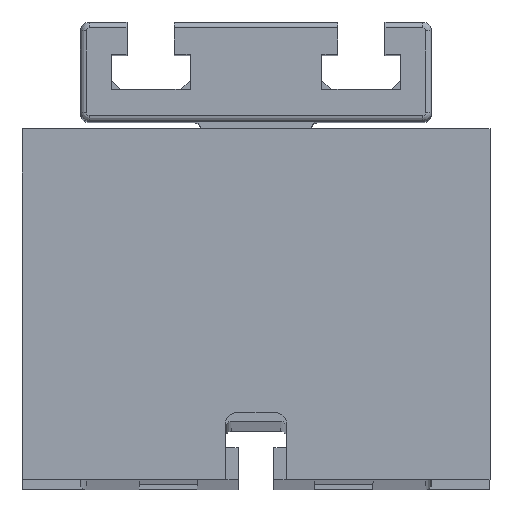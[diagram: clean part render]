
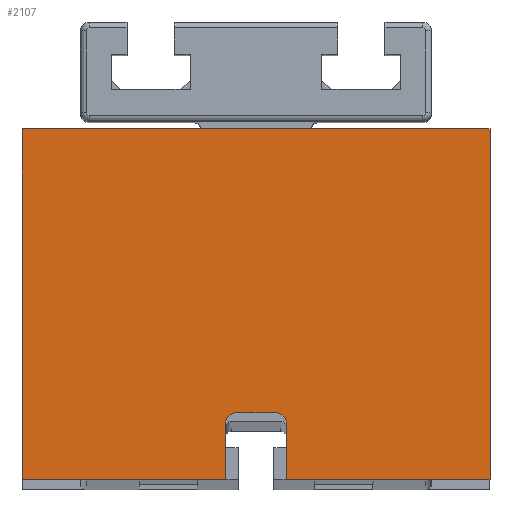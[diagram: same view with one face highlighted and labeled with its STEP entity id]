
A CAD part, top view. The second image highlights one B-rep face of the part: STEP entity #2107.
In plain terms, the highlighted planar face has unit normal (0, 0, 1).
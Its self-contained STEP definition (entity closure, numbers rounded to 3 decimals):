
#7 = CARTESIAN_POINT ( 'NONE',  ( -5.25, 0., 12. ) ) ;
#93 = LINE ( 'NONE', #5881, #4899 ) ;
#197 = CARTESIAN_POINT ( 'NONE',  ( -3.25, -20.5, 12. ) ) ;
#372 = CARTESIAN_POINT ( 'NONE',  ( 0., -30., 12. ) ) ;
#378 = CARTESIAN_POINT ( 'NONE',  ( -5.25, -30., 12. ) ) ;
#380 = CARTESIAN_POINT ( 'NONE',  ( 5.25, -20.5, 12. ) ) ;
#408 = CARTESIAN_POINT ( 'NONE',  ( 40., -30., 12. ) ) ;
#424 = LINE ( 'NONE', #372, #3987 ) ;
#482 = DIRECTION ( 'NONE',  ( 0., -1., 0. ) ) ;
#486 = ORIENTED_EDGE ( 'NONE', *, *, #4388, .T. ) ;
#506 = VERTEX_POINT ( 'NONE', #2068 ) ;
#524 = DIRECTION ( 'NONE',  ( 0., -1., 0. ) ) ;
#596 = AXIS2_PLACEMENT_3D ( 'NONE', #1731, #2126, #4900 ) ;
#867 = VERTEX_POINT ( 'NONE', #5093 ) ;
#1024 = ORIENTED_EDGE ( 'NONE', *, *, #1359, .T. ) ;
#1049 = EDGE_CURVE ( 'NONE', #4682, #2054, #2299, .T. ) ;
#1143 = DIRECTION ( 'NONE',  ( 1., 0., 0. ) ) ;
#1236 = VECTOR ( 'NONE', #482, 1000. ) ;
#1258 = ORIENTED_EDGE ( 'NONE', *, *, #1744, .T. ) ;
#1359 = EDGE_CURVE ( 'NONE', #2054, #506, #4625, .T. ) ;
#1397 = VERTEX_POINT ( 'NONE', #2343 ) ;
#1399 = DIRECTION ( 'NONE',  ( 0., -1., 0. ) ) ;
#1493 = DIRECTION ( 'NONE',  ( 1., 0., 0. ) ) ;
#1693 = VECTOR ( 'NONE', #5085, 1000. ) ;
#1731 = CARTESIAN_POINT ( 'NONE',  ( 0., 0., 12. ) ) ;
#1744 = EDGE_CURVE ( 'NONE', #3779, #1397, #93, .T. ) ;
#1840 = CARTESIAN_POINT ( 'NONE',  ( 5.25, 0., 12. ) ) ;
#2012 = LINE ( 'NONE', #4733, #4479 ) ;
#2027 = VERTEX_POINT ( 'NONE', #408 ) ;
#2054 = VERTEX_POINT ( 'NONE', #380 ) ;
#2068 = CARTESIAN_POINT ( 'NONE',  ( 5.25, -30., 12. ) ) ;
#2085 = CARTESIAN_POINT ( 'NONE',  ( 0., -30., 12. ) ) ;
#2107 = ADVANCED_FACE ( 'NONE', ( #2576 ), #4407, .T. ) ;
#2126 = DIRECTION ( 'NONE',  ( 0., 0., 1. ) ) ;
#2299 = CIRCLE ( 'NONE', #2973, 2. ) ;
#2343 = CARTESIAN_POINT ( 'NONE',  ( -40., -30., 12. ) ) ;
#2449 = EDGE_LOOP ( 'NONE', ( #3552, #3872, #1024, #486, #3880, #4774, #1258, #2511, #2626, #5318 ) ) ;
#2511 = ORIENTED_EDGE ( 'NONE', *, *, #5769, .T. ) ;
#2576 = FACE_OUTER_BOUND ( 'NONE', #2449, .T. ) ;
#2602 = VERTEX_POINT ( 'NONE', #4083 ) ;
#2626 = ORIENTED_EDGE ( 'NONE', *, *, #5155, .F. ) ;
#2766 = CARTESIAN_POINT ( 'NONE',  ( 3.25, -18.5, 12. ) ) ;
#2830 = CARTESIAN_POINT ( 'NONE',  ( 0., -18.5, 12. ) ) ;
#2973 = AXIS2_PLACEMENT_3D ( 'NONE', #4460, #5295, #5809 ) ;
#3056 = EDGE_CURVE ( 'NONE', #867, #4682, #4220, .T. ) ;
#3108 = VECTOR ( 'NONE', #1143, 1000. ) ;
#3234 = EDGE_CURVE ( 'NONE', #867, #4368, #4465, .T. ) ;
#3303 = VECTOR ( 'NONE', #5496, 1000. ) ;
#3336 = LINE ( 'NONE', #5141, #1693 ) ;
#3477 = LINE ( 'NONE', #2085, #3108 ) ;
#3552 = ORIENTED_EDGE ( 'NONE', *, *, #3056, .T. ) ;
#3671 = EDGE_CURVE ( 'NONE', #3779, #2602, #2012, .T. ) ;
#3779 = VERTEX_POINT ( 'NONE', #4903 ) ;
#3872 = ORIENTED_EDGE ( 'NONE', *, *, #1049, .T. ) ;
#3880 = ORIENTED_EDGE ( 'NONE', *, *, #5491, .F. ) ;
#3987 = VECTOR ( 'NONE', #5046, 1000. ) ;
#4080 = VECTOR ( 'NONE', #1399, 1000. ) ;
#4083 = CARTESIAN_POINT ( 'NONE',  ( 40., 30., 12. ) ) ;
#4220 = LINE ( 'NONE', #2830, #3303 ) ;
#4274 = DIRECTION ( 'NONE',  ( 1., 0., 0. ) ) ;
#4368 = VERTEX_POINT ( 'NONE', #4861 ) ;
#4372 = AXIS2_PLACEMENT_3D ( 'NONE', #197, #4687, #4274 ) ;
#4388 = EDGE_CURVE ( 'NONE', #506, #2027, #3477, .T. ) ;
#4407 = PLANE ( 'NONE',  #596 ) ;
#4460 = CARTESIAN_POINT ( 'NONE',  ( 3.25, -20.5, 12. ) ) ;
#4465 = CIRCLE ( 'NONE', #4372, 2. ) ;
#4479 = VECTOR ( 'NONE', #1493, 1000. ) ;
#4625 = LINE ( 'NONE', #1840, #1236 ) ;
#4682 = VERTEX_POINT ( 'NONE', #2766 ) ;
#4687 = DIRECTION ( 'NONE',  ( 0., 0., 1. ) ) ;
#4733 = CARTESIAN_POINT ( 'NONE',  ( 0., 30., 12. ) ) ;
#4774 = ORIENTED_EDGE ( 'NONE', *, *, #3671, .F. ) ;
#4861 = CARTESIAN_POINT ( 'NONE',  ( -5.25, -20.5, 12. ) ) ;
#4899 = VECTOR ( 'NONE', #524, 1000. ) ;
#4900 = DIRECTION ( 'NONE',  ( 1., 0., 0. ) ) ;
#4903 = CARTESIAN_POINT ( 'NONE',  ( -40., 30., 12. ) ) ;
#5037 = LINE ( 'NONE', #7, #4080 ) ;
#5046 = DIRECTION ( 'NONE',  ( 1., 0., 0. ) ) ;
#5085 = DIRECTION ( 'NONE',  ( 0., -1., 0. ) ) ;
#5093 = CARTESIAN_POINT ( 'NONE',  ( -3.25, -18.5, 12. ) ) ;
#5141 = CARTESIAN_POINT ( 'NONE',  ( 40., 0., 12. ) ) ;
#5155 = EDGE_CURVE ( 'NONE', #4368, #5420, #5037, .T. ) ;
#5295 = DIRECTION ( 'NONE',  ( 0., 0., -1. ) ) ;
#5318 = ORIENTED_EDGE ( 'NONE', *, *, #3234, .F. ) ;
#5420 = VERTEX_POINT ( 'NONE', #378 ) ;
#5491 = EDGE_CURVE ( 'NONE', #2602, #2027, #3336, .T. ) ;
#5496 = DIRECTION ( 'NONE',  ( 1., 0., 0. ) ) ;
#5769 = EDGE_CURVE ( 'NONE', #1397, #5420, #424, .T. ) ;
#5809 = DIRECTION ( 'NONE',  ( 1., 0., 0. ) ) ;
#5881 = CARTESIAN_POINT ( 'NONE',  ( -40., 0., 12. ) ) ;
